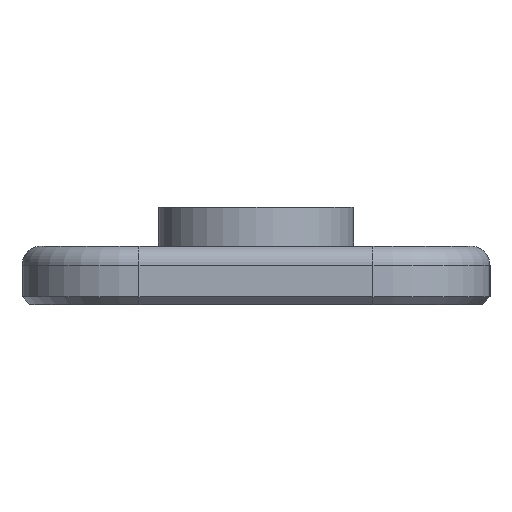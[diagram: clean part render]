
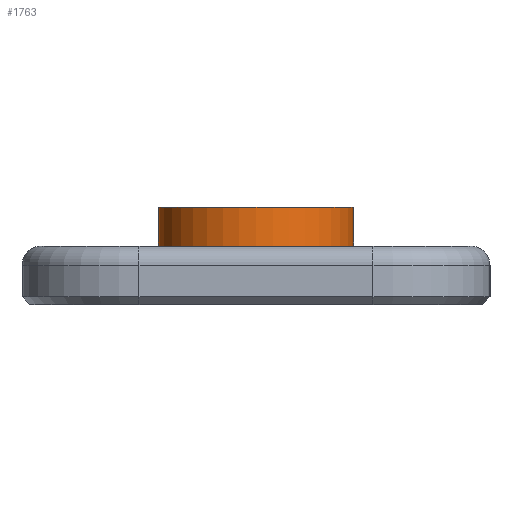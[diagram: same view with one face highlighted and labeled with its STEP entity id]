
A CAD part, left-side view. The second image highlights one B-rep face of the part: STEP entity #1763.
In plain terms, the highlighted cylindrical face has radius 2.5 mm (diameter 5 mm), a full revolution.
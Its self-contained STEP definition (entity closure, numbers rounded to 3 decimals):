
#362 = PLANE('',#363);
#363 = AXIS2_PLACEMENT_3D('',#364,#365,#366);
#364 = CARTESIAN_POINT('',(0.,0.,1.5));
#365 = DIRECTION('',(0.,0.,1.));
#366 = DIRECTION('',(1.,0.,-0.));
#1110 = EDGE_CURVE('',#1111,#1111,#1113,.T.);
#1111 = VERTEX_POINT('',#1112);
#1112 = CARTESIAN_POINT('',(-45.5,0.,1.5));
#1113 = SURFACE_CURVE('',#1114,(#1119,#1126),.PCURVE_S1.);
#1114 = CIRCLE('',#1115,2.5);
#1115 = AXIS2_PLACEMENT_3D('',#1116,#1117,#1118);
#1116 = CARTESIAN_POINT('',(-48.,0.,1.5));
#1117 = DIRECTION('',(0.,0.,1.));
#1118 = DIRECTION('',(1.,0.,-0.));
#1119 = PCURVE('',#362,#1120);
#1120 = DEFINITIONAL_REPRESENTATION('',(#1121),#1125);
#1121 = CIRCLE('',#1122,2.5);
#1122 = AXIS2_PLACEMENT_2D('',#1123,#1124);
#1123 = CARTESIAN_POINT('',(-48.,0.));
#1124 = DIRECTION('',(1.,0.));
#1125 = ( GEOMETRIC_REPRESENTATION_CONTEXT(2) 
PARAMETRIC_REPRESENTATION_CONTEXT() REPRESENTATION_CONTEXT('2D SPACE',''
  ) );
#1126 = PCURVE('',#1127,#1132);
#1127 = CYLINDRICAL_SURFACE('',#1128,2.5);
#1128 = AXIS2_PLACEMENT_3D('',#1129,#1130,#1131);
#1129 = CARTESIAN_POINT('',(-48.,0.,1.49));
#1130 = DIRECTION('',(0.,0.,1.));
#1131 = DIRECTION('',(1.,0.,-0.));
#1132 = DEFINITIONAL_REPRESENTATION('',(#1133),#1137);
#1133 = LINE('',#1134,#1135);
#1134 = CARTESIAN_POINT('',(0.,0.01));
#1135 = VECTOR('',#1136,1.);
#1136 = DIRECTION('',(1.,0.));
#1137 = ( GEOMETRIC_REPRESENTATION_CONTEXT(2) 
PARAMETRIC_REPRESENTATION_CONTEXT() REPRESENTATION_CONTEXT('2D SPACE',''
  ) );
#1546 = PLANE('',#1547);
#1547 = AXIS2_PLACEMENT_3D('',#1548,#1549,#1550);
#1548 = CARTESIAN_POINT('',(-48.,0.,2.49));
#1549 = DIRECTION('',(0.,0.,1.));
#1550 = DIRECTION('',(1.,0.,-0.));
#1763 = ADVANCED_FACE('',(#1764),#1127,.T.);
#1764 = FACE_BOUND('',#1765,.T.);
#1765 = EDGE_LOOP('',(#1766,#1789,#1811,#1812));
#1766 = ORIENTED_EDGE('',*,*,#1767,.T.);
#1767 = EDGE_CURVE('',#1111,#1768,#1770,.T.);
#1768 = VERTEX_POINT('',#1769);
#1769 = CARTESIAN_POINT('',(-45.5,0.,2.49));
#1770 = SEAM_CURVE('',#1771,(#1775,#1782),.PCURVE_S1.);
#1771 = LINE('',#1772,#1773);
#1772 = CARTESIAN_POINT('',(-45.5,0.,1.49));
#1773 = VECTOR('',#1774,1.);
#1774 = DIRECTION('',(0.,0.,1.));
#1775 = PCURVE('',#1127,#1776);
#1776 = DEFINITIONAL_REPRESENTATION('',(#1777),#1781);
#1777 = LINE('',#1778,#1779);
#1778 = CARTESIAN_POINT('',(6.283,-0.));
#1779 = VECTOR('',#1780,1.);
#1780 = DIRECTION('',(0.,1.));
#1781 = ( GEOMETRIC_REPRESENTATION_CONTEXT(2) 
PARAMETRIC_REPRESENTATION_CONTEXT() REPRESENTATION_CONTEXT('2D SPACE',''
  ) );
#1782 = PCURVE('',#1127,#1783);
#1783 = DEFINITIONAL_REPRESENTATION('',(#1784),#1788);
#1784 = LINE('',#1785,#1786);
#1785 = CARTESIAN_POINT('',(0.,-0.));
#1786 = VECTOR('',#1787,1.);
#1787 = DIRECTION('',(0.,1.));
#1788 = ( GEOMETRIC_REPRESENTATION_CONTEXT(2) 
PARAMETRIC_REPRESENTATION_CONTEXT() REPRESENTATION_CONTEXT('2D SPACE',''
  ) );
#1789 = ORIENTED_EDGE('',*,*,#1790,.F.);
#1790 = EDGE_CURVE('',#1768,#1768,#1791,.T.);
#1791 = SURFACE_CURVE('',#1792,(#1797,#1804),.PCURVE_S1.);
#1792 = CIRCLE('',#1793,2.5);
#1793 = AXIS2_PLACEMENT_3D('',#1794,#1795,#1796);
#1794 = CARTESIAN_POINT('',(-48.,0.,2.49));
#1795 = DIRECTION('',(0.,0.,1.));
#1796 = DIRECTION('',(1.,0.,-0.));
#1797 = PCURVE('',#1127,#1798);
#1798 = DEFINITIONAL_REPRESENTATION('',(#1799),#1803);
#1799 = LINE('',#1800,#1801);
#1800 = CARTESIAN_POINT('',(0.,1.));
#1801 = VECTOR('',#1802,1.);
#1802 = DIRECTION('',(1.,0.));
#1803 = ( GEOMETRIC_REPRESENTATION_CONTEXT(2) 
PARAMETRIC_REPRESENTATION_CONTEXT() REPRESENTATION_CONTEXT('2D SPACE',''
  ) );
#1804 = PCURVE('',#1546,#1805);
#1805 = DEFINITIONAL_REPRESENTATION('',(#1806),#1810);
#1806 = CIRCLE('',#1807,2.5);
#1807 = AXIS2_PLACEMENT_2D('',#1808,#1809);
#1808 = CARTESIAN_POINT('',(0.,0.));
#1809 = DIRECTION('',(1.,0.));
#1810 = ( GEOMETRIC_REPRESENTATION_CONTEXT(2) 
PARAMETRIC_REPRESENTATION_CONTEXT() REPRESENTATION_CONTEXT('2D SPACE',''
  ) );
#1811 = ORIENTED_EDGE('',*,*,#1767,.F.);
#1812 = ORIENTED_EDGE('',*,*,#1110,.T.);
